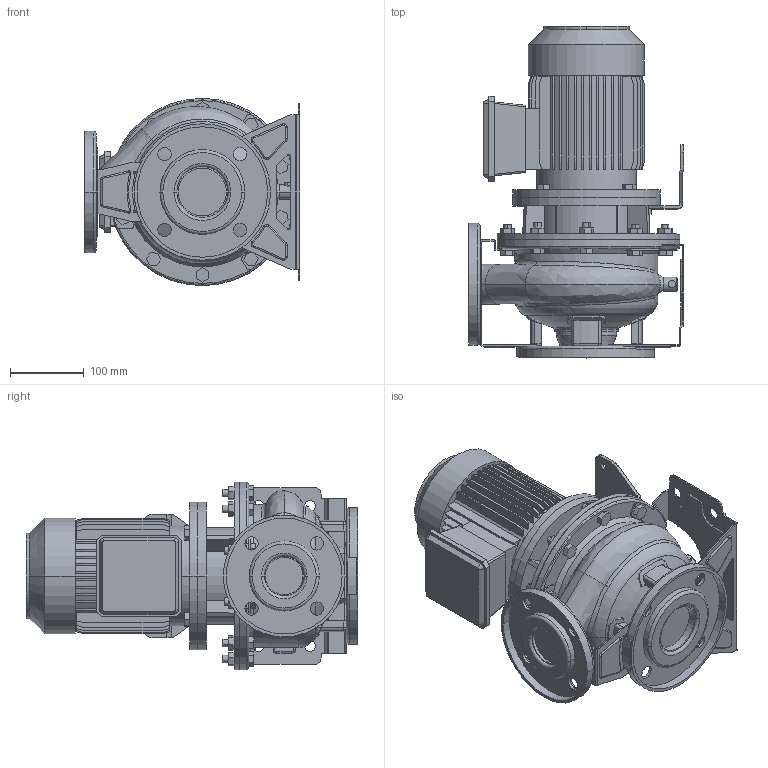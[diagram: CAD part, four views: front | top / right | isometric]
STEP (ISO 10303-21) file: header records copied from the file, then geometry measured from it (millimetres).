
FILE_DESCRIPTION((''),'2;1');
FILE_NAME('3S4_50-125_0_55_IE1_ASM','2016-09-23T',('rosa'),('"Ebara Pumps Europe +39.444.706811"'),'PRO/ENGINEER BY PARAMETRIC TECHNOLOGY CORPORATION, 2012130','PRO/ENGINEER BY PARAMETRIC TECHNOLOGY CORPORATION, 2012130','');
FILE_SCHEMA(('AUTOMOTIVE_DESIGN { 1 0 10303 214 1 1 1 1 }'));
Length unit declared in the file: millimetre
Products named in the file (11): MOTORE_80_0_55_KW_4POLI_B5; SUPPORTO_3S_190_80; SOSTEGNO_3S_72019; CORPO_50-125_AF0; ASP_50-125; FLANGIA_DIN_65; MAND_50-125; FLANGIA_DIN_50; BASE_3M_50-125; CORPO_SALDATO_50-125_ASM; 3S4_50-125_0_55_IE1_ASM
Assembly tree (10 placements, depth 3):
  3S4_50-125_0_55_IE1_ASM
    MOTORE_80_0_55_KW_4POLI_B5
    SUPPORTO_3S_190_80
    SOSTEGNO_3S_72019
    CORPO_SALDATO_50-125_ASM
      CORPO_50-125_AF0
      ASP_50-125
      FLANGIA_DIN_65
      MAND_50-125
      FLANGIA_DIN_50
      BASE_3M_50-125
Bounding box: 292 x 450 x 254 mm (x, y, z)
Volume: 9650851.7 mm3; surface area: 1102489.1 mm2
Topology: 12 solids, 12 shells, 1109 faces, 2861 edges, 1877 vertices
Faces by surface type: plane 688, cylinder 302, torus 54, bspline 35, cone 24, sphere 6
Entity records: 47617 total; most frequent: CARTESIAN_POINT 9455, DIRECTION 5837, ORIENTED_EDGE 5722, EDGE_CURVE 2861, PRESENTATION_STYLE_ASSIGNMENT 2732, STYLED_ITEM 2732, CURVE_STYLE 2721, AXIS2_PLACEMENT_3D 1978
